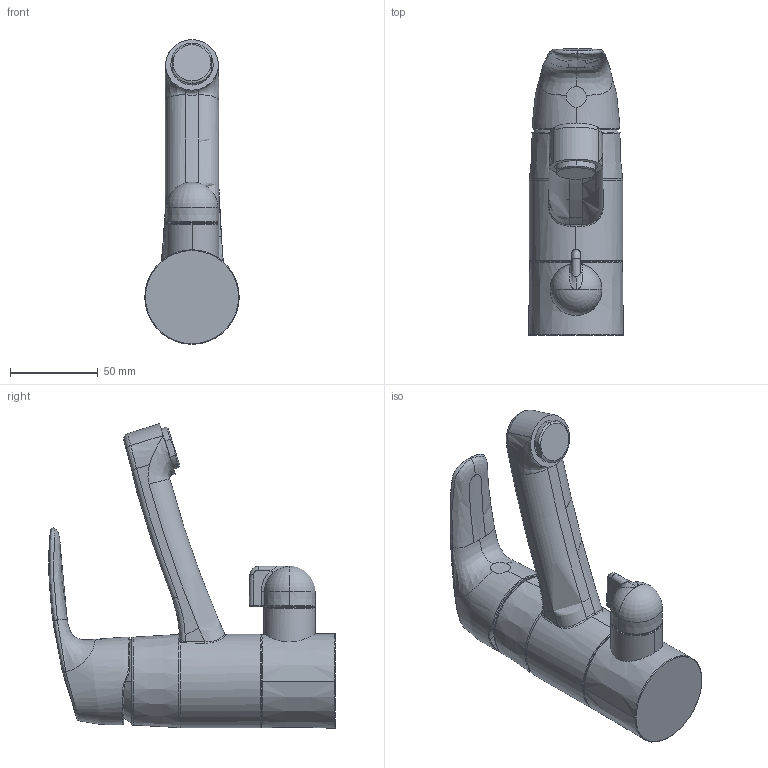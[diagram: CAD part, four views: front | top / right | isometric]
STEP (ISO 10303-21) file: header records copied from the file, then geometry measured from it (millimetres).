
FILE_DESCRIPTION (( 'STEP AP203' ), '1' );
FILE_NAME ('1013F(2021).STEP', '2021-01-19T08:16:07', ( '' ), ( '' ), 'SwSTEP 2.0', 'SolidWorks 2016', '' );
FILE_SCHEMA (( 'CONFIG_CONTROL_DESIGN' ));
Length unit declared in the file: millimetre
Products named in the file (1): 1013F(2021)
Bounding box: 53.72 x 162.89 x 173.17 mm (x, y, z)
Volume: 427961.9 mm3; surface area: 48127.4 mm2
Topology: 1 solids, 1 shells, 137 faces, 339 edges, 204 vertices
Faces by surface type: bspline 67, torus 23, cylinder 20, plane 16, cone 11
Entity records: 18715 total; most frequent: CARTESIAN_POINT 15982, ORIENTED_EDGE 668, DIRECTION 388, EDGE_CURVE 334, VERTEX_POINT 204, B_SPLINE_CURVE_WITH_KNOTS 188, AXIS2_PLACEMENT_3D 177, EDGE_LOOP 142
